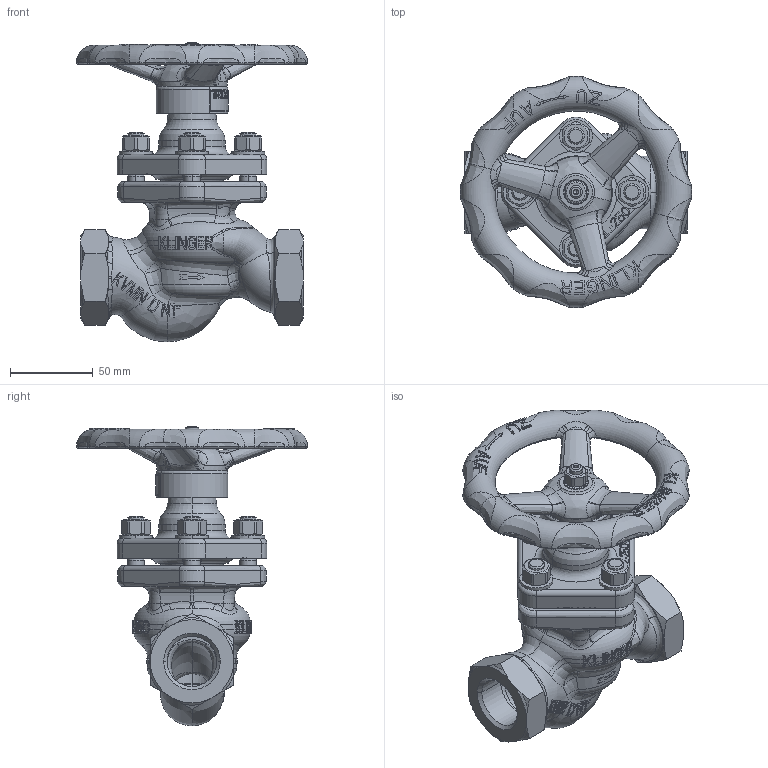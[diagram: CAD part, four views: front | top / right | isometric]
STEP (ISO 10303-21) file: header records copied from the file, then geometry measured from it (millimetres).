
FILE_DESCRIPTION((''),'2;1');
FILE_NAME('KVMN-G1-S-----P016DGG_SW0001','2015-07-09T',('jeitlers'),('RAND'),'PRO/ENGINEER BY PARAMETRIC TECHNOLOGY CORPORATION, 2013410','PRO/ENGINEER BY PARAMETRIC TECHNOLOGY CORPORATION, 2013410','');
FILE_SCHEMA(('CONFIG_CONTROL_DESIGN'));
Products named in the file (1): KVMN-G1-S-----P016DGG_SW0001
Bounding box: 139.98 x 139.98 x 181.5 mm (x, y, z)
Volume: 458637.9 mm3; surface area: 140915.2 mm2
Topology: 3 solids, 3 shells, 2672 faces, 7274 edges, 4628 vertices
Faces by surface type: plane 1429, bspline 621, cylinder 331, torus 156, cone 135
Entity records: 173172 total; most frequent: CARTESIAN_POINT 112607, ORIENTED_EDGE 14540, DIRECTION 9880, EDGE_CURVE 7270, VERTEX_POINT 4628, AXIS2_PLACEMENT_3D 3479, VECTOR 2922, LINE 2922
